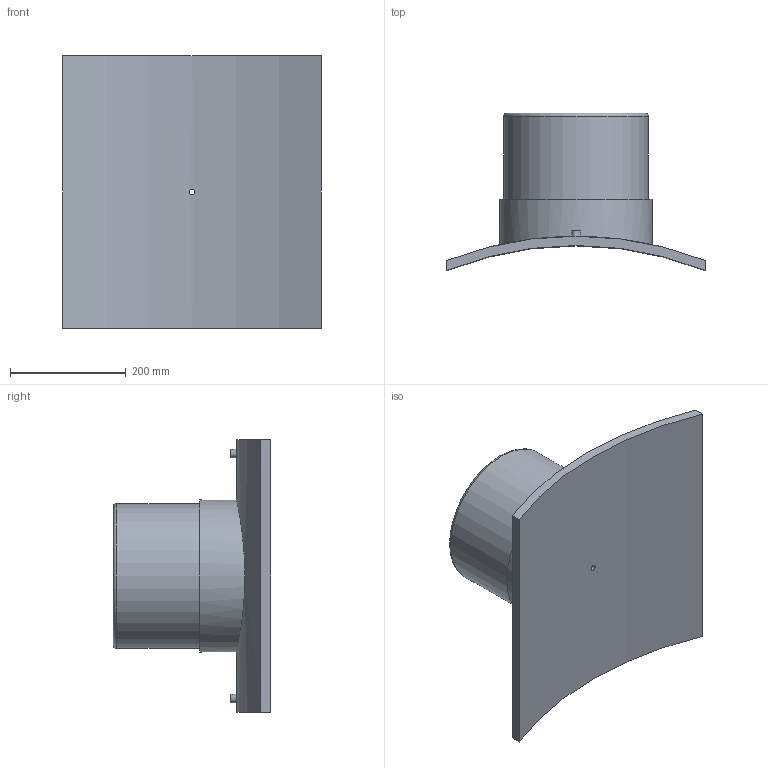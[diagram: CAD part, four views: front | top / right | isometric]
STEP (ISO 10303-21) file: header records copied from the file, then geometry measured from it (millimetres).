
FILE_DESCRIPTION(/* description */ ('PLASSON BRANCH SADDLE 1200x250'),/* implementation_level */ '2;1');
FILE_NAME(/* name */ 'C:\Dropbox\KIMPROJECTS-Inventor 2019\99-16-3568-Processing\ElectroFusion Fittings\495803\stp\4958031200250T.stp',/* time_stamp */ '2024-04-04T11:48:14+02:00',/* author */ ('KIM'),/* organization */ (''),/* preprocessor_version */ 'ST-DEVELOPER v17.2',/* originating_system */ 'Autodesk Inventor 2019',/* authorisation */ '');
FILE_SCHEMA (('AUTOMOTIVE_DESIGN { 1 0 10303 214 3 1 1 }'));
Length unit declared in the file: millimetre
Products named in the file (1): 4958031200250T
Bounding box: 447 x 272.18 x 470 mm (x, y, z)
Volume: 7657038 mm3; surface area: 780140.5 mm2
Topology: 1 solids, 1 shells, 29 faces, 60 edges, 43 vertices
Faces by surface type: plane 13, cylinder 12, torus 2, cone 2
Full cylindrical faces by diameter (mm): 4 x2, 9.6 x1, 10 x2, 16 x1, 200 x1, 250 x1, 262.5 x1
Entity records: 1086 total; most frequent: CARTESIAN_POINT 400, DIRECTION 139, ORIENTED_EDGE 120, EDGE_CURVE 60, AXIS2_PLACEMENT_3D 60, VERTEX_POINT 43, EDGE_LOOP 41, CIRCLE 30
